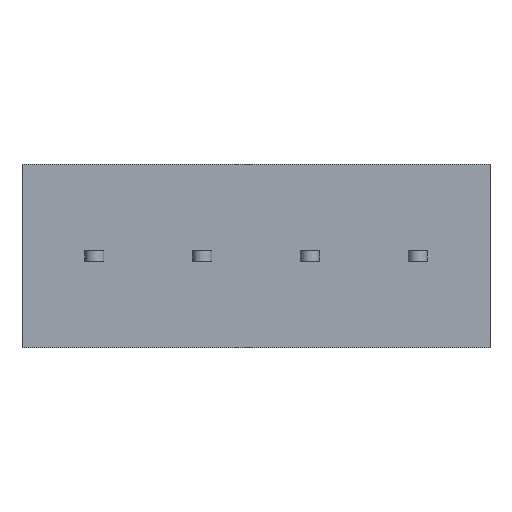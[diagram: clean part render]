
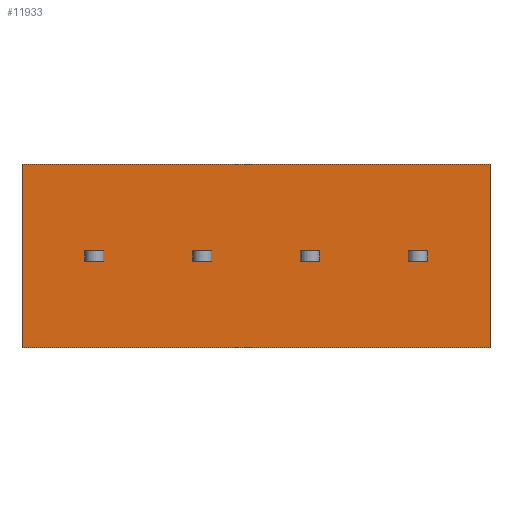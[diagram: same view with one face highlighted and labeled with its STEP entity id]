
A CAD part, front view. The second image highlights one B-rep face of the part: STEP entity #11933.
In plain terms, the highlighted planar face has unit normal (0, -1, 0).
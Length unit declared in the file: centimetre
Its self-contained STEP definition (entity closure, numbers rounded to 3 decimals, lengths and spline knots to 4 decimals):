
#735=VERTEX_POINT('',#15304);
#736=VERTEX_POINT('',#15305);
#739=VERTEX_POINT('',#15313);
#767=VERTEX_POINT('',#15384);
#817=VERTEX_POINT('',#15589);
#818=VERTEX_POINT('',#15590);
#821=VERTEX_POINT('',#15598);
#849=VERTEX_POINT('',#15669);
#899=VERTEX_POINT('',#15874);
#900=VERTEX_POINT('',#15875);
#903=VERTEX_POINT('',#15883);
#931=VERTEX_POINT('',#15954);
#1027=VERTEX_POINT('',#16290);
#1034=VERTEX_POINT('',#16303);
#1207=VERTEX_POINT('',#16856);
#1208=VERTEX_POINT('',#16857);
#1211=VERTEX_POINT('',#16865);
#1222=VERTEX_POINT('',#16900);
#1561=VERTEX_POINT('',#18413);
#1562=VERTEX_POINT('',#18415);
#1931=VECTOR('',#12913,1.);
#1935=VECTOR('',#12918,1.);
#1960=VECTOR('',#12974,1.);
#1962=VECTOR('',#12977,1.);
#2003=VECTOR('',#13131,1.);
#2007=VECTOR('',#13136,1.);
#2032=VECTOR('',#13192,1.);
#2034=VECTOR('',#13195,1.);
#2075=VECTOR('',#13349,1.);
#2079=VECTOR('',#13354,1.);
#2104=VECTOR('',#13410,1.);
#2106=VECTOR('',#13413,1.);
#2211=VECTOR('',#13671,1.);
#2401=VECTOR('',#14091,1.);
#2405=VECTOR('',#14096,1.);
#2416=VECTOR('',#14129,1.);
#2418=VECTOR('',#14132,1.);
#2827=VECTOR('',#14680,1.);
#2863=VECTOR('',#14735,1.);
#2864=VECTOR('',#14736,1.);
#3275=LINE('',#15303,#1931);
#3279=LINE('',#15312,#1935);
#3304=LINE('',#15383,#1960);
#3306=LINE('',#15387,#1962);
#3347=LINE('',#15588,#2003);
#3351=LINE('',#15597,#2007);
#3376=LINE('',#15668,#2032);
#3378=LINE('',#15672,#2034);
#3419=LINE('',#15873,#2075);
#3423=LINE('',#15882,#2079);
#3448=LINE('',#15953,#2104);
#3450=LINE('',#15957,#2106);
#3555=LINE('',#16304,#2211);
#3745=LINE('',#16855,#2401);
#3749=LINE('',#16864,#2405);
#3760=LINE('',#16899,#2416);
#3762=LINE('',#16903,#2418);
#4171=LINE('',#18414,#2827);
#4207=LINE('',#18494,#2863);
#4208=LINE('',#18495,#2864);
#4619=EDGE_CURVE('',#735,#736,#3275,.T.);
#4623=EDGE_CURVE('',#739,#735,#3279,.T.);
#4658=EDGE_CURVE('',#767,#739,#3304,.T.);
#4660=EDGE_CURVE('',#736,#767,#3306,.T.);
#4741=EDGE_CURVE('',#817,#818,#3347,.T.);
#4745=EDGE_CURVE('',#821,#817,#3351,.T.);
#4780=EDGE_CURVE('',#849,#821,#3376,.T.);
#4782=EDGE_CURVE('',#818,#849,#3378,.T.);
#4863=EDGE_CURVE('',#899,#900,#3419,.T.);
#4867=EDGE_CURVE('',#903,#899,#3423,.T.);
#4902=EDGE_CURVE('',#931,#903,#3448,.T.);
#4904=EDGE_CURVE('',#900,#931,#3450,.T.);
#5057=EDGE_CURVE('',#1034,#1027,#3555,.T.);
#5313=EDGE_CURVE('',#1207,#1208,#3745,.T.);
#5317=EDGE_CURVE('',#1211,#1207,#3749,.T.);
#5334=EDGE_CURVE('',#1222,#1211,#3760,.T.);
#5336=EDGE_CURVE('',#1208,#1222,#3762,.T.);
#5849=EDGE_CURVE('',#1562,#1561,#4171,.T.);
#5889=EDGE_CURVE('',#1561,#1027,#4207,.T.);
#5890=EDGE_CURVE('',#1034,#1562,#4208,.T.);
#8871=ORIENTED_EDGE('',*,*,#4623,.T.);
#8872=ORIENTED_EDGE('',*,*,#4619,.T.);
#8873=ORIENTED_EDGE('',*,*,#4660,.T.);
#8874=ORIENTED_EDGE('',*,*,#4658,.T.);
#8875=ORIENTED_EDGE('',*,*,#4745,.T.);
#8876=ORIENTED_EDGE('',*,*,#4741,.T.);
#8877=ORIENTED_EDGE('',*,*,#4782,.T.);
#8878=ORIENTED_EDGE('',*,*,#4780,.T.);
#8879=ORIENTED_EDGE('',*,*,#4867,.T.);
#8880=ORIENTED_EDGE('',*,*,#4863,.T.);
#8881=ORIENTED_EDGE('',*,*,#4904,.T.);
#8882=ORIENTED_EDGE('',*,*,#4902,.T.);
#8883=ORIENTED_EDGE('',*,*,#5317,.T.);
#8884=ORIENTED_EDGE('',*,*,#5313,.T.);
#8885=ORIENTED_EDGE('',*,*,#5336,.T.);
#8886=ORIENTED_EDGE('',*,*,#5334,.T.);
#8887=ORIENTED_EDGE('',*,*,#5889,.T.);
#8888=ORIENTED_EDGE('',*,*,#5057,.F.);
#8889=ORIENTED_EDGE('',*,*,#5890,.T.);
#8890=ORIENTED_EDGE('',*,*,#5849,.T.);
#10505=EDGE_LOOP('',(#8871,#8872,#8873,#8874));
#10506=EDGE_LOOP('',(#8875,#8876,#8877,#8878));
#10507=EDGE_LOOP('',(#8879,#8880,#8881,#8882));
#10508=EDGE_LOOP('',(#8883,#8884,#8885,#8886));
#10509=EDGE_LOOP('',(#8887,#8888,#8889,#8890));
#11245=FACE_BOUND('',#10505,.T.);
#11246=FACE_BOUND('',#10506,.T.);
#11247=FACE_BOUND('',#10507,.T.);
#11248=FACE_BOUND('',#10508,.T.);
#11249=FACE_BOUND('',#10509,.T.);
#11933=ADVANCED_FACE('',(#11245,#11246,#11247,#11248,#11249),#20357,.T.);
#12764=AXIS2_PLACEMENT_3D('',#18493,#14734,$);
#12913=DIRECTION('',(0.,0.,1.));
#12918=DIRECTION('',(-1.,0.,0.));
#12974=DIRECTION('',(0.,0.,-1.));
#12977=DIRECTION('',(1.,0.,0.));
#13131=DIRECTION('',(0.,0.,1.));
#13136=DIRECTION('',(-1.,0.,0.));
#13192=DIRECTION('',(0.,0.,-1.));
#13195=DIRECTION('',(1.,0.,0.));
#13349=DIRECTION('',(0.,0.,1.));
#13354=DIRECTION('',(-1.,0.,0.));
#13410=DIRECTION('',(0.,0.,-1.));
#13413=DIRECTION('',(1.,0.,0.));
#13671=DIRECTION('',(0.,0.,-1.));
#14091=DIRECTION('',(0.,0.,1.));
#14096=DIRECTION('',(-1.,0.,0.));
#14129=DIRECTION('',(0.,0.,-1.));
#14132=DIRECTION('',(1.,0.,0.));
#14680=DIRECTION('',(0.,0.,-1.));
#14734=DIRECTION('',(0.,-1.,0.));
#14735=DIRECTION('',(1.,0.,0.));
#14736=DIRECTION('',(-1.,0.,0.));
#15303=CARTESIAN_POINT('',(3.5,0.,-0.175));
#15304=CARTESIAN_POINT('',(3.5,0.,-0.05));
#15305=CARTESIAN_POINT('',(3.5,0.,0.05));
#15312=CARTESIAN_POINT('',(1.795,0.,-0.05));
#15313=CARTESIAN_POINT('',(3.68,0.,-0.05));
#15383=CARTESIAN_POINT('',(3.68,0.,-0.175));
#15384=CARTESIAN_POINT('',(3.68,0.,0.05));
#15387=CARTESIAN_POINT('',(1.795,0.,0.05));
#15588=CARTESIAN_POINT('',(2.5,0.,-0.175));
#15589=CARTESIAN_POINT('',(2.5,0.,-0.05));
#15590=CARTESIAN_POINT('',(2.5,0.,0.05));
#15597=CARTESIAN_POINT('',(1.295,0.,-0.05));
#15598=CARTESIAN_POINT('',(2.68,0.,-0.05));
#15668=CARTESIAN_POINT('',(2.68,0.,-0.175));
#15669=CARTESIAN_POINT('',(2.68,0.,0.05));
#15672=CARTESIAN_POINT('',(1.295,0.,0.05));
#15873=CARTESIAN_POINT('',(1.5,0.,-0.175));
#15874=CARTESIAN_POINT('',(1.5,0.,-0.05));
#15875=CARTESIAN_POINT('',(1.5,0.,0.05));
#15882=CARTESIAN_POINT('',(0.795,0.,-0.05));
#15883=CARTESIAN_POINT('',(1.68,0.,-0.05));
#15953=CARTESIAN_POINT('',(1.68,0.,-0.175));
#15954=CARTESIAN_POINT('',(1.68,0.,0.05));
#15957=CARTESIAN_POINT('',(0.795,0.,0.05));
#16290=CARTESIAN_POINT('',(4.26,0.,-0.85));
#16303=CARTESIAN_POINT('',(4.26,0.,0.85));
#16304=CARTESIAN_POINT('',(4.26,0.,0.85));
#16855=CARTESIAN_POINT('',(0.5,0.,-0.175));
#16856=CARTESIAN_POINT('',(0.5,0.,-0.05));
#16857=CARTESIAN_POINT('',(0.5,0.,0.05));
#16864=CARTESIAN_POINT('',(0.295,0.,-0.05));
#16865=CARTESIAN_POINT('',(0.68,0.,-0.05));
#16899=CARTESIAN_POINT('',(0.68,0.,-0.175));
#16900=CARTESIAN_POINT('',(0.68,0.,0.05));
#16903=CARTESIAN_POINT('',(0.295,0.,0.05));
#18413=CARTESIAN_POINT('',(-0.08,0.,-0.85));
#18414=CARTESIAN_POINT('',(-0.08,0.,0.85));
#18415=CARTESIAN_POINT('',(-0.08,0.,0.85));
#18493=CARTESIAN_POINT('',(0.,0.,0.));
#18494=CARTESIAN_POINT('',(3.,0.,-0.85));
#18495=CARTESIAN_POINT('',(0.,0.,0.85));
#20357=PLANE('',#12764);
